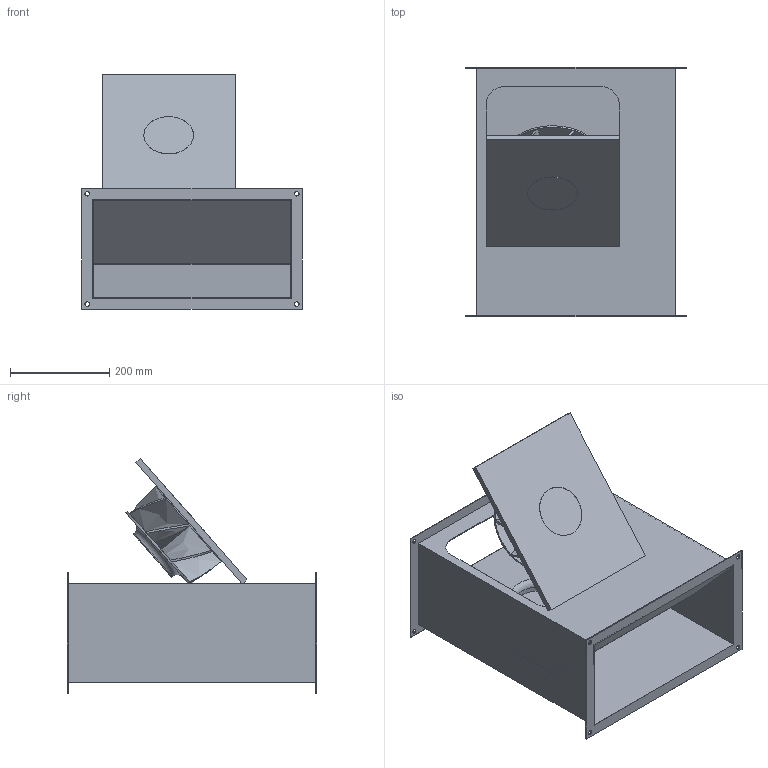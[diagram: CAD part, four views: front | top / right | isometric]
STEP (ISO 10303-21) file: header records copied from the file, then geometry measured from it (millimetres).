
FILE_DESCRIPTION(/* description */ (''),/* implementation_level */ '2;1');
FILE_NAME(/* name */ 'Z:\Output\KRW_225-2-40-20-08886-010.stp',/* time_stamp */ '2017-07-19T15:42:38+02:00',/* author */ ('Engineering1'),/* organization */ (''),/* preprocessor_version */ 'ST-DEVELOPER v16.5',/* originating_system */ 'Autodesk Inventor 2017',/* authorisation */ '');
FILE_SCHEMA (('AUTOMOTIVE_DESIGN { 1 0 10303 214 3 1 1 }'));
Length unit declared in the file: millimetre
Products named in the file (1): KR-1
Bounding box: 443 x 502 x 472.2 mm (x, y, z)
Volume: 3319371.5 mm3; surface area: 2004583 mm2
Topology: 1 solids, 1 shells, 130 faces, 336 edges, 199 vertices
Faces by surface type: plane 84, bspline 24, cylinder 19, torus 3
Full cylindrical faces by diameter (mm): 9 x8, 100 x3, 116 x1, 120 x1, 200 x2
Entity records: 4451 total; most frequent: CARTESIAN_POINT 1212, ORIENTED_EDGE 636, DIRECTION 595, EDGE_CURVE 316, LINE 203, VECTOR 203, VERTEX_POINT 197, AXIS2_PLACEMENT_3D 196
